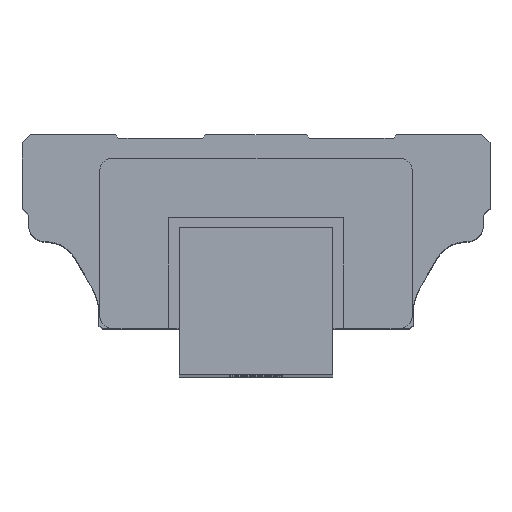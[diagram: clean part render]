
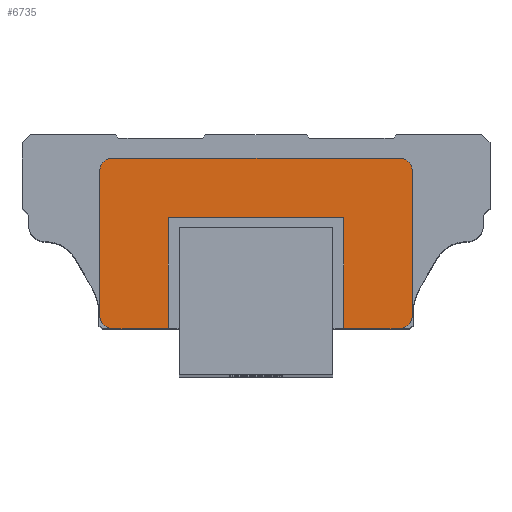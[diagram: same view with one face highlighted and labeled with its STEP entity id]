
A CAD part, top view. The second image highlights one B-rep face of the part: STEP entity #6735.
In plain terms, the highlighted planar face has unit normal (0, 0, 1).
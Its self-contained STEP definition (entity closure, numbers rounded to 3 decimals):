
#6209=CARTESIAN_POINT('',(25.0,7.0,151.5));
#6210=VERTEX_POINT('',#6209);
#6211=CARTESIAN_POINT('',(25.0,23.6,151.5));
#6212=VERTEX_POINT('',#6211);
#6213=CARTESIAN_POINT('',(25.0,7.0,151.5));
#6214=DIRECTION('',(0.0,1.0,0.0));
#6215=VECTOR('',#6214,1.0);
#6216=LINE('',#6213,#6215);
#6217=EDGE_CURVE('',#6210,#6212,#6216,.T.);
#6351=CARTESIAN_POINT('',(-1.2,23.6,151.5));
#6352=VERTEX_POINT('',#6351);
#6353=CARTESIAN_POINT('',(-1.2,7.0,151.5));
#6354=VERTEX_POINT('',#6353);
#6355=CARTESIAN_POINT('',(-1.2,23.6,151.5));
#6356=DIRECTION('',(0.0,-1.0,0.0));
#6357=VECTOR('',#6356,1.0);
#6358=LINE('',#6355,#6357);
#6359=EDGE_CURVE('',#6352,#6354,#6358,.T.);
#6391=CARTESIAN_POINT('',(25.0,23.6,151.5));
#6392=DIRECTION('',(-1.0,0.0,0.0));
#6393=VECTOR('',#6392,1.0);
#6394=LINE('',#6391,#6393);
#6395=EDGE_CURVE('',#6212,#6352,#6394,.T.);
#6439=CARTESIAN_POINT('',(33.3,32.5,151.5));
#6440=VERTEX_POINT('',#6439);
#6441=CARTESIAN_POINT('',(35.3,30.5,151.5));
#6442=VERTEX_POINT('',#6441);
#6443=CARTESIAN_POINT('',(33.3,30.5,151.5));
#6444=DIRECTION('',(0.,0.,-1.0));
#6445=DIRECTION('',(0.,1.0,0.));
#6446=AXIS2_PLACEMENT_3D('',#6443,#6444,#6445);
#6447=CIRCLE('',#6446,2.);
#6448=EDGE_CURVE('',#6440,#6442,#6447,.T.);
#6481=CARTESIAN_POINT('',(35.3,9.0,151.5));
#6482=VERTEX_POINT('',#6481);
#6483=CARTESIAN_POINT('',(35.3,30.5,151.5));
#6484=DIRECTION('',(0.0,-1.0,0.0));
#6485=VECTOR('',#6484,1.0);
#6486=LINE('',#6483,#6485);
#6487=EDGE_CURVE('',#6442,#6482,#6486,.T.);
#6512=CARTESIAN_POINT('',(33.3,7.0,151.5));
#6513=VERTEX_POINT('',#6512);
#6514=CARTESIAN_POINT('',(33.3,9.,151.5));
#6515=DIRECTION('',(0.0,0.0,-1.0));
#6516=DIRECTION('',(1.0,0.0,0.0));
#6517=AXIS2_PLACEMENT_3D('',#6514,#6515,#6516);
#6518=CIRCLE('',#6517,2.);
#6519=EDGE_CURVE('',#6482,#6513,#6518,.T.);
#6545=CARTESIAN_POINT('',(33.3,7.0,151.5));
#6546=DIRECTION('',(-1.0,0.0,0.0));
#6547=VECTOR('',#6546,1.0);
#6548=LINE('',#6545,#6547);
#6549=EDGE_CURVE('',#6513,#6210,#6548,.T.);
#6569=CARTESIAN_POINT('',(-9.5,7.0,151.5));
#6570=VERTEX_POINT('',#6569);
#6571=CARTESIAN_POINT('',(-1.2,7.0,151.5));
#6572=DIRECTION('',(-1.0,0.0,0.0));
#6573=VECTOR('',#6572,1.);
#6574=LINE('',#6571,#6573);
#6575=EDGE_CURVE('',#6354,#6570,#6574,.T.);
#6602=CARTESIAN_POINT('',(-11.5,9.0,151.5));
#6603=VERTEX_POINT('',#6602);
#6604=CARTESIAN_POINT('',(-9.5,9.,151.5));
#6605=DIRECTION('',(0.,0.,-1.0));
#6606=DIRECTION('',(0.0,-1.0,0.));
#6607=AXIS2_PLACEMENT_3D('',#6604,#6605,#6606);
#6608=CIRCLE('',#6607,2.0);
#6609=EDGE_CURVE('',#6570,#6603,#6608,.T.);
#6635=CARTESIAN_POINT('',(-11.5,30.5,151.5));
#6636=VERTEX_POINT('',#6635);
#6637=CARTESIAN_POINT('',(-11.5,9.0,151.5));
#6638=DIRECTION('',(0.0,1.0,0.0));
#6639=VECTOR('',#6638,1.0);
#6640=LINE('',#6637,#6639);
#6641=EDGE_CURVE('',#6603,#6636,#6640,.T.);
#6666=CARTESIAN_POINT('',(-9.5,32.5,151.5));
#6667=VERTEX_POINT('',#6666);
#6668=CARTESIAN_POINT('',(-9.5,30.5,151.5));
#6669=DIRECTION('',(0.,0.,-1.0));
#6670=DIRECTION('',(-1.0,0.,0.));
#6671=AXIS2_PLACEMENT_3D('',#6668,#6669,#6670);
#6672=CIRCLE('',#6671,2.);
#6673=EDGE_CURVE('',#6636,#6667,#6672,.T.);
#6699=CARTESIAN_POINT('',(-9.5,32.5,151.5));
#6700=DIRECTION('',(1.0,0.0,0.0));
#6701=VECTOR('',#6700,1.0);
#6702=LINE('',#6699,#6701);
#6703=EDGE_CURVE('',#6667,#6440,#6702,.T.);
#6716=CARTESIAN_POINT('',(-13.84,5.725,151.5));
#6717=DIRECTION('',(0.0,0.0,1.0));
#6718=DIRECTION('',(1.0,0.0,0.0));
#6719=AXIS2_PLACEMENT_3D('',#6716,#6717,#6718);
#6720=PLANE('',#6719);
#6721=ORIENTED_EDGE('',*,*,#6448,.F.);
#6722=ORIENTED_EDGE('',*,*,#6703,.F.);
#6723=ORIENTED_EDGE('',*,*,#6673,.F.);
#6724=ORIENTED_EDGE('',*,*,#6641,.F.);
#6725=ORIENTED_EDGE('',*,*,#6609,.F.);
#6726=ORIENTED_EDGE('',*,*,#6575,.F.);
#6727=ORIENTED_EDGE('',*,*,#6359,.F.);
#6728=ORIENTED_EDGE('',*,*,#6395,.F.);
#6729=ORIENTED_EDGE('',*,*,#6217,.F.);
#6730=ORIENTED_EDGE('',*,*,#6549,.F.);
#6731=ORIENTED_EDGE('',*,*,#6519,.F.);
#6732=ORIENTED_EDGE('',*,*,#6487,.F.);
#6733=EDGE_LOOP('',(#6721,#6722,#6723,#6724,#6725,#6726,#6727,#6728,#6729,#6730,#6731,#6732));
#6734=FACE_OUTER_BOUND('',#6733,.T.);
#6735=ADVANCED_FACE('',(#6734),#6720,.T.);
